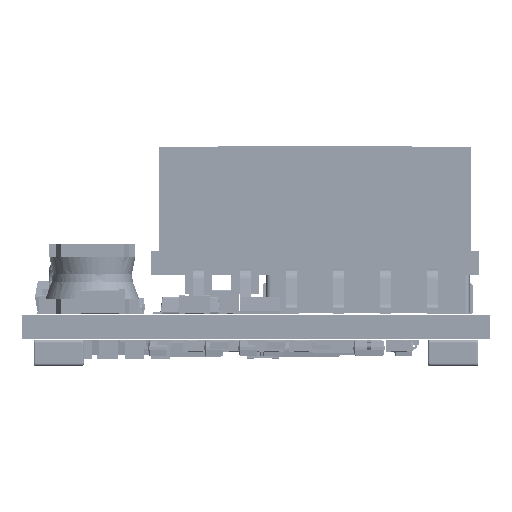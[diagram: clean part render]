
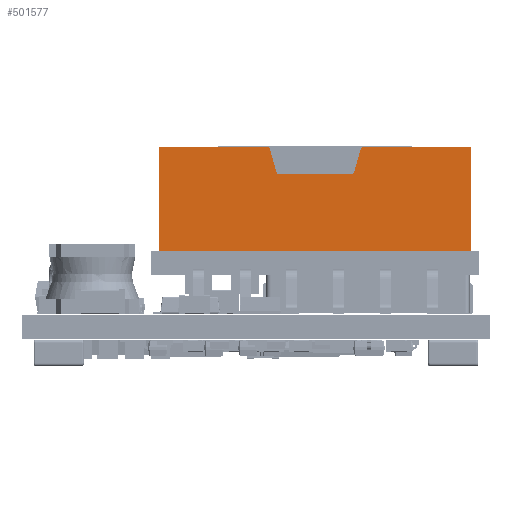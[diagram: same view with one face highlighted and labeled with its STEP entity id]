
A CAD part, left-side view. The second image highlights one B-rep face of the part: STEP entity #501577.
In plain terms, the highlighted face is a extrusion surface.
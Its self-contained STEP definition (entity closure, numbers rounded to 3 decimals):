
#501577 = ADVANCED_FACE('',(#501578),#501680,.T.);
#501578 = FACE_BOUND('',#501579,.T.);
#501579 = EDGE_LOOP('',(#501580,#501590,#501599,#501607,#501616,#501624,
    #501633,#501641,#501650,#501658,#501666,#501674));
#501580 = ORIENTED_EDGE('',*,*,#501581,.T.);
#501581 = EDGE_CURVE('',#501582,#501584,#501586,.T.);
#501582 = VERTEX_POINT('',#501583);
#501583 = CARTESIAN_POINT('',(8.217,-1.165,
    10.73));
#501584 = VERTEX_POINT('',#501585);
#501585 = CARTESIAN_POINT('',(8.217,5.772,
    10.73));
#501586 = LINE('',#501587,#501588);
#501587 = CARTESIAN_POINT('',(8.217,-1.165,
    10.73));
#501588 = VECTOR('',#501589,1.);
#501589 = DIRECTION('',(0.,1.,0.));
#501590 = ORIENTED_EDGE('',*,*,#501591,.T.);
#501591 = EDGE_CURVE('',#501584,#501592,#501594,.T.);
#501592 = VERTEX_POINT('',#501593);
#501593 = CARTESIAN_POINT('',(8.217,5.917,
    10.621));
#501594 = CIRCLE('',#501595,0.15);
#501595 = AXIS2_PLACEMENT_3D('',#501596,#501597,#501598);
#501596 = CARTESIAN_POINT('',(8.217,5.772,
    10.58));
#501597 = DIRECTION('',(-1.,0.,0.));
#501598 = DIRECTION('',(0.,-1.,0.));
#501599 = ORIENTED_EDGE('',*,*,#501600,.T.);
#501600 = EDGE_CURVE('',#501592,#501601,#501603,.T.);
#501601 = VERTEX_POINT('',#501602);
#501602 = CARTESIAN_POINT('',(8.217,6.354,
    9.095));
#501603 = LINE('',#501604,#501605);
#501604 = CARTESIAN_POINT('',(8.217,5.917,
    10.621));
#501605 = VECTOR('',#501606,1.);
#501606 = DIRECTION('',(0.,0.276,-0.961));
#501607 = ORIENTED_EDGE('',*,*,#501608,.T.);
#501608 = EDGE_CURVE('',#501601,#501609,#501611,.T.);
#501609 = VERTEX_POINT('',#501610);
#501610 = CARTESIAN_POINT('',(8.217,6.498,
    8.986));
#501611 = CIRCLE('',#501612,0.15);
#501612 = AXIS2_PLACEMENT_3D('',#501613,#501614,#501615);
#501613 = CARTESIAN_POINT('',(8.217,6.498,
    9.136));
#501614 = DIRECTION('',(1.,0.,0.));
#501615 = DIRECTION('',(0.,-1.,0.));
#501616 = ORIENTED_EDGE('',*,*,#501617,.T.);
#501617 = EDGE_CURVE('',#501609,#501618,#501620,.T.);
#501618 = VERTEX_POINT('',#501619);
#501619 = CARTESIAN_POINT('',(8.217,11.172,
    8.986));
#501620 = LINE('',#501621,#501622);
#501621 = CARTESIAN_POINT('',(8.217,6.498,
    8.986));
#501622 = VECTOR('',#501623,1.);
#501623 = DIRECTION('',(0.,1.,0.));
#501624 = ORIENTED_EDGE('',*,*,#501625,.T.);
#501625 = EDGE_CURVE('',#501618,#501626,#501628,.T.);
#501626 = VERTEX_POINT('',#501627);
#501627 = CARTESIAN_POINT('',(8.217,11.317,
    9.095));
#501628 = CIRCLE('',#501629,0.15);
#501629 = AXIS2_PLACEMENT_3D('',#501630,#501631,#501632);
#501630 = CARTESIAN_POINT('',(8.217,11.172,
    9.136));
#501631 = DIRECTION('',(1.,0.,0.));
#501632 = DIRECTION('',(0.,-1.,0.));
#501633 = ORIENTED_EDGE('',*,*,#501634,.T.);
#501634 = EDGE_CURVE('',#501626,#501635,#501637,.T.);
#501635 = VERTEX_POINT('',#501636);
#501636 = CARTESIAN_POINT('',(8.217,11.754,
    10.621));
#501637 = LINE('',#501638,#501639);
#501638 = CARTESIAN_POINT('',(8.217,11.317,
    9.095));
#501639 = VECTOR('',#501640,1.);
#501640 = DIRECTION('',(0.,0.276,0.961));
#501641 = ORIENTED_EDGE('',*,*,#501642,.T.);
#501642 = EDGE_CURVE('',#501635,#501643,#501645,.T.);
#501643 = VERTEX_POINT('',#501644);
#501644 = CARTESIAN_POINT('',(8.217,11.898,
    10.73));
#501645 = CIRCLE('',#501646,0.15);
#501646 = AXIS2_PLACEMENT_3D('',#501647,#501648,#501649);
#501647 = CARTESIAN_POINT('',(8.217,11.898,
    10.58));
#501648 = DIRECTION('',(-1.,0.,0.));
#501649 = DIRECTION('',(0.,-1.,0.));
#501650 = ORIENTED_EDGE('',*,*,#501651,.T.);
#501651 = EDGE_CURVE('',#501643,#501652,#501654,.T.);
#501652 = VERTEX_POINT('',#501653);
#501653 = CARTESIAN_POINT('',(8.217,18.835,
    10.73));
#501654 = LINE('',#501655,#501656);
#501655 = CARTESIAN_POINT('',(8.217,11.898,
    10.73));
#501656 = VECTOR('',#501657,1.);
#501657 = DIRECTION('',(0.,1.,0.));
#501658 = ORIENTED_EDGE('',*,*,#501659,.T.);
#501659 = EDGE_CURVE('',#501652,#501660,#501662,.T.);
#501660 = VERTEX_POINT('',#501661);
#501661 = CARTESIAN_POINT('',(8.217,18.835,
    4.08));
#501662 = LINE('',#501663,#501664);
#501663 = CARTESIAN_POINT('',(8.217,18.835,
    10.73));
#501664 = VECTOR('',#501665,1.);
#501665 = DIRECTION('',(0.,0.,-1.));
#501666 = ORIENTED_EDGE('',*,*,#501667,.T.);
#501667 = EDGE_CURVE('',#501660,#501668,#501670,.T.);
#501668 = VERTEX_POINT('',#501669);
#501669 = CARTESIAN_POINT('',(8.217,-1.165,
    4.08));
#501670 = LINE('',#501671,#501672);
#501671 = CARTESIAN_POINT('',(8.217,18.835,
    4.08));
#501672 = VECTOR('',#501673,1.);
#501673 = DIRECTION('',(0.,-1.,0.));
#501674 = ORIENTED_EDGE('',*,*,#501675,.T.);
#501675 = EDGE_CURVE('',#501668,#501582,#501676,.T.);
#501676 = LINE('',#501677,#501678);
#501677 = CARTESIAN_POINT('',(8.217,-1.165,
    4.08));
#501678 = VECTOR('',#501679,1.);
#501679 = DIRECTION('',(0.,0.,1.));
#501680 = SURFACE_OF_LINEAR_EXTRUSION('',#501681,#501685);
#501681 = LINE('',#501682,#501683);
#501682 = CARTESIAN_POINT('',(8.217,-1.165,
    10.73));
#501683 = VECTOR('',#501684,1.);
#501684 = DIRECTION('',(0.,1.,0.));
#501685 = VECTOR('',#501686,1.);
#501686 = DIRECTION('',(0.,0.,-1.));
